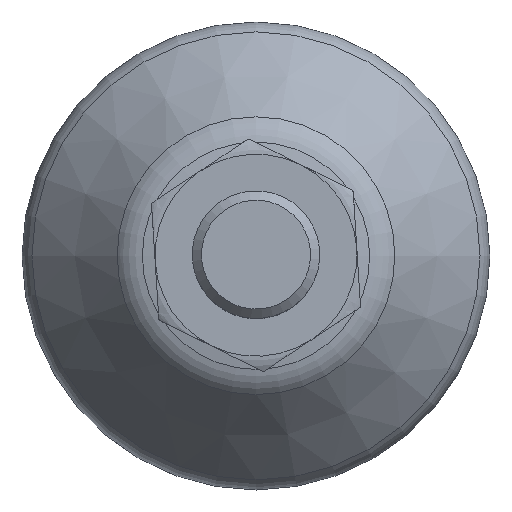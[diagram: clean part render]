
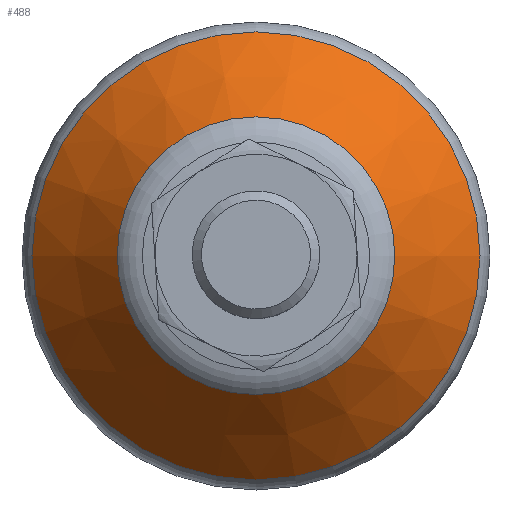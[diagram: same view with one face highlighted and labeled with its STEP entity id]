
A CAD part, top view. The second image highlights one B-rep face of the part: STEP entity #488.
In plain terms, the highlighted conical face has half-angle 40 degrees and reference radius 13.057 mm.
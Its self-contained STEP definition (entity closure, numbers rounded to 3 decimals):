
#488=ADVANCED_FACE('',(#823,#824),#825,.T.);
#823=FACE_BOUND('',#1124,.T.);
#824=FACE_OUTER_BOUND('',#1125,.T.);
#825=CONICAL_SURFACE('',#1126,13.057,0.698);
#1124=EDGE_LOOP('',(#1748));
#1125=EDGE_LOOP('',(#1749));
#1126=AXIS2_PLACEMENT_3D('',#1750,#1751,#1752);
#1748=ORIENTED_EDGE('',*,*,#1962,.T.);
#1749=ORIENTED_EDGE('',*,*,#1981,.F.);
#1750=CARTESIAN_POINT('',(0.0,0.0,16.114));
#1751=DIRECTION('',(-0.0,0.0,-1.0));
#1752=DIRECTION('',(-1.0,0.0,0.0));
#1962=EDGE_CURVE('',#2282,#2282,#2283,.T.);
#1981=EDGE_CURVE('',#2311,#2311,#2312,.T.);
#2282=VERTEX_POINT('',#3215);
#2283=CIRCLE('',#3216,13.057);
#2311=VERTEX_POINT('',#3244);
#2312=CIRCLE('',#3245,21.064);
#3215=CARTESIAN_POINT('',(-13.057,0.0,16.114));
#3216=AXIS2_PLACEMENT_3D('',#3469,#3470,#3471);
#3244=CARTESIAN_POINT('',(-21.064,0.0,6.571));
#3245=AXIS2_PLACEMENT_3D('',#3499,#3500,#3501);
#3469=CARTESIAN_POINT('',(0.0,0.0,16.114));
#3470=DIRECTION('',(0.0,0.0,-1.0));
#3471=DIRECTION('',(-1.0,0.0,0.0));
#3499=CARTESIAN_POINT('',(0.0,0.0,6.571));
#3500=DIRECTION('',(0.0,0.0,-1.0));
#3501=DIRECTION('',(-1.0,0.0,0.0));
